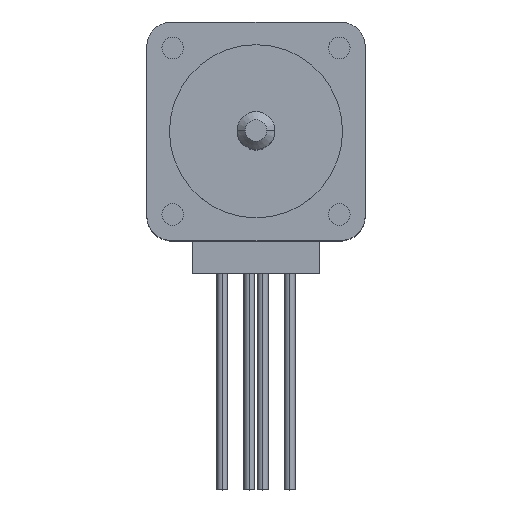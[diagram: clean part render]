
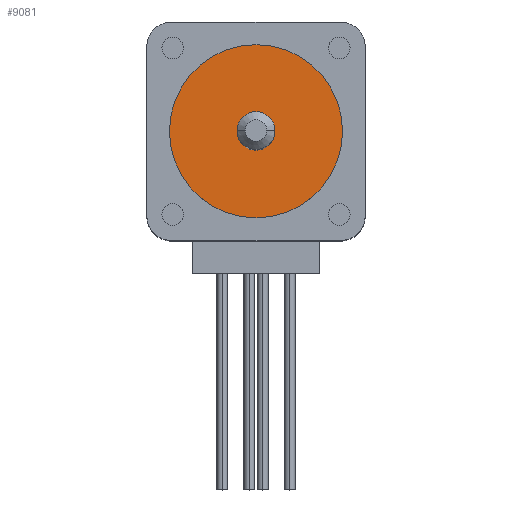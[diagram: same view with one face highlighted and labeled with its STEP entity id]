
A CAD part, top view. The second image highlights one B-rep face of the part: STEP entity #9081.
In plain terms, the highlighted planar face has unit normal (0, 0, 1).
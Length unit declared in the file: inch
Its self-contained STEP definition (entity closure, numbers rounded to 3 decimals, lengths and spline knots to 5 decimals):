
#47 = CARTESIAN_POINT ( 'NONE',  ( 0.0689, 0., 0.05906 ) ) ;
#207 = CIRCLE ( 'NONE', #8390, 0.31496 ) ;
#446 = DIRECTION ( 'NONE',  ( 0., 0., 1. ) ) ;
#487 = PLANE ( 'NONE',  #3280 ) ;
#529 = ORIENTED_EDGE ( 'NONE', *, *, #3425, .T. ) ;
#533 = FACE_OUTER_BOUND ( 'NONE', #7476, .T. ) ;
#846 = AXIS2_PLACEMENT_3D ( 'NONE', #6983, #1812, #4001 ) ;
#1202 = CARTESIAN_POINT ( 'NONE',  ( 0., 0., 0.05906 ) ) ;
#1277 = CARTESIAN_POINT ( 'NONE',  ( 0.31496, 0., 0.05906 ) ) ;
#1371 = EDGE_CURVE ( 'NONE', #5726, #8547, #6964, .T. ) ;
#1487 = DIRECTION ( 'NONE',  ( 0., 0., 1. ) ) ;
#1636 = CARTESIAN_POINT ( 'NONE',  ( 0., 0., 0.05906 ) ) ;
#1770 = VERTEX_POINT ( 'NONE', #1277 ) ;
#1812 = DIRECTION ( 'NONE',  ( 0., 0., 1. ) ) ;
#2173 = CARTESIAN_POINT ( 'NONE',  ( 0., 0., 0.05906 ) ) ;
#3280 = AXIS2_PLACEMENT_3D ( 'NONE', #1636, #8017, #6595 ) ;
#3315 = CARTESIAN_POINT ( 'NONE',  ( -0.0689, 0., 0.05906 ) ) ;
#3425 = EDGE_CURVE ( 'NONE', #8105, #1770, #207, .T. ) ;
#3732 = EDGE_CURVE ( 'NONE', #1770, #8105, #8240, .T. ) ;
#3793 = AXIS2_PLACEMENT_3D ( 'NONE', #2173, #1487, #4354 ) ;
#4001 = DIRECTION ( 'NONE',  ( 1., 0., 0. ) ) ;
#4067 = EDGE_LOOP ( 'NONE', ( #6831, #8357 ) ) ;
#4235 = CARTESIAN_POINT ( 'NONE',  ( -0.31496, 0., 0.05906 ) ) ;
#4272 = FACE_BOUND ( 'NONE', #4067, .T. ) ;
#4354 = DIRECTION ( 'NONE',  ( 1., 0., 0. ) ) ;
#4576 = ORIENTED_EDGE ( 'NONE', *, *, #3732, .T. ) ;
#5339 = DIRECTION ( 'NONE',  ( 1., 0., 0. ) ) ;
#5374 = AXIS2_PLACEMENT_3D ( 'NONE', #6043, #8976, #5339 ) ;
#5464 = DIRECTION ( 'NONE',  ( 1., 0., 0. ) ) ;
#5726 = VERTEX_POINT ( 'NONE', #47 ) ;
#6043 = CARTESIAN_POINT ( 'NONE',  ( 0., 0., 0.05906 ) ) ;
#6126 = CIRCLE ( 'NONE', #5374, 0.0689 ) ;
#6595 = DIRECTION ( 'NONE',  ( 1., 0., 0. ) ) ;
#6831 = ORIENTED_EDGE ( 'NONE', *, *, #1371, .F. ) ;
#6964 = CIRCLE ( 'NONE', #3793, 0.0689 ) ;
#6983 = CARTESIAN_POINT ( 'NONE',  ( 0., 0., 0.05906 ) ) ;
#7476 = EDGE_LOOP ( 'NONE', ( #529, #4576 ) ) ;
#7733 = EDGE_CURVE ( 'NONE', #8547, #5726, #6126, .T. ) ;
#8017 = DIRECTION ( 'NONE',  ( 0., 0., 1. ) ) ;
#8105 = VERTEX_POINT ( 'NONE', #4235 ) ;
#8240 = CIRCLE ( 'NONE', #846, 0.31496 ) ;
#8357 = ORIENTED_EDGE ( 'NONE', *, *, #7733, .F. ) ;
#8390 = AXIS2_PLACEMENT_3D ( 'NONE', #1202, #446, #5464 ) ;
#8547 = VERTEX_POINT ( 'NONE', #3315 ) ;
#8976 = DIRECTION ( 'NONE',  ( 0., 0., 1. ) ) ;
#9081 = ADVANCED_FACE ( 'NONE', ( #4272, #533 ), #487, .T. ) ;
